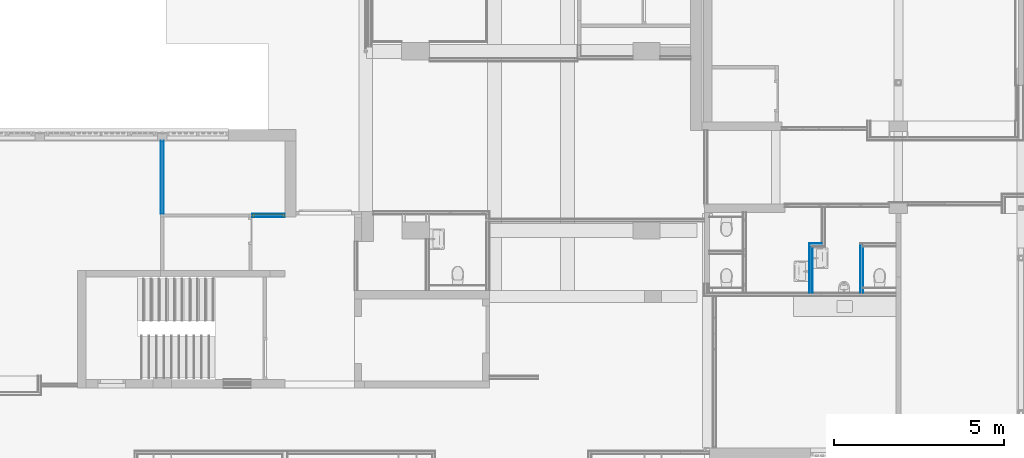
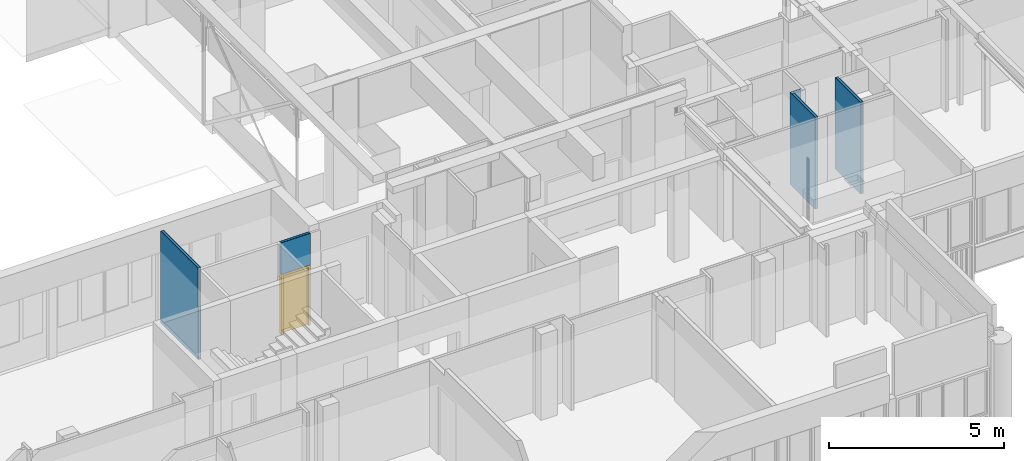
# One storey, part 77 of 117: 13 building element parts, 1 door, 1 opening, 5 elements without a shape of their own.
"""IFC2X3 building model written with IfcOpenShell, lengths in millimetres."""

from ifc_helpers import new_model, entity, si_unit, converted_unit, derived_unit, money_unit, direction, frame, origin_with_axes, place, context, subcontext, project, spatial, faceted_brep, material, type_object, element, fill, aggregate, save


model = new_model("IFC2X3")

# Units and contexts
model_context = context("Model", 3, precision=0.01, world=origin_with_axes(), true_north=direction((0.0, 1.0)))
body_context = subcontext(model_context, "Body", "Model", "MODEL_VIEW")
ifc_project = project(units=[si_unit("LENGTHUNIT", "METRE", prefix="MILLI"), si_unit("AREAUNIT", "SQUARE_METRE"), si_unit("VOLUMEUNIT", "CUBIC_METRE"), converted_unit("PLANEANGLEUNIT", "DEGREE", entity("IfcPlaneAngleMeasure", 0.0174532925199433), si_unit("PLANEANGLEUNIT", "RADIAN"), dimensions=[0, 0, 0, 0, 0, 0, 0]), money_unit("EUR"), converted_unit("TIMEUNIT", "Year", entity("IfcTimeMeasure", 31557600.0), si_unit("TIMEUNIT", "SECOND"), dimensions=[0, 0, 1, 0, 0, 0, 0]), si_unit("MASSUNIT", "GRAM", prefix="KILO"), si_unit("THERMODYNAMICTEMPERATUREUNIT", "DEGREE_CELSIUS"), si_unit("LUMINOUSINTENSITYUNIT", "LUMEN"), si_unit("ENERGYUNIT", "JOULE", prefix="MEGA"), derived_unit("THERMALCONDUCTANCEUNIT", [(si_unit("POWERUNIT", "WATT"), 1), (si_unit("LENGTHUNIT", "METRE"), -1), (si_unit("THERMODYNAMICTEMPERATUREUNIT", "KELVIN"), -1)]), derived_unit("SPECIFICHEATCAPACITYUNIT", [(si_unit("ENERGYUNIT", "JOULE"), 1), (si_unit("MASSUNIT", "GRAM", prefix="KILO"), -1), (si_unit("THERMODYNAMICTEMPERATUREUNIT", "KELVIN"), -1)]), derived_unit("MASSDENSITYUNIT", [(si_unit("MASSUNIT", "GRAM", prefix="KILO"), 1), (si_unit("VOLUMEUNIT", "CUBIC_METRE"), -1)])], contexts=[model_context])

# Site, building, storey
site_placement = place(None, origin_with_axes())
site = spatial("IfcSite", under=ifc_project, at=site_placement, Name="Site", CompositionType="ELEMENT")
building_placement = place(site_placement, origin_with_axes())
building = spatial("IfcBuilding", under=site, at=building_placement, Name="Naam gebouw", CompositionType="ELEMENT")
storey_placement = place(building_placement, frame((0.0, 0.0, 4150.0), z_axis=(0.0, 0.0, 1.0), x_axis=(1.0, 0.0, 0.0)))
storey = spatial("IfcBuildingStorey", under=building, at=storey_placement, Name="1e verdieping N", CompositionType="ELEMENT", Elevation=4150.0)

# Door
door_style = type_object("IfcDoorStyle", Name="D1 27", ConstructionType="NOTDEFINED", OperationType="SINGLE_SWING_RIGHT", ParameterTakesPrecedence=False, Sizeable=False)
wall_1_placement = place(storey_placement, frame((17037.79224075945, 17756.42315075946, 0.0), z_axis=(0.0, 0.0, 1.0), x_axis=(1.0, 0.0, 0.0)))
opening_placement = place(wall_1_placement, frame((481.1039150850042, 0.0, 0.0), z_axis=(0.0, 0.0, 1.0), x_axis=(1.0, 0.0, 0.0)))
door_placement = place(opening_placement, frame((-481.1039150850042, 0.0, 0.0), z_axis=(0.0, 0.0, 1.0), x_axis=(1.0, 0.0, 0.0)))
door = element("IfcDoor", 1, at=door_placement, inside=storey, type_object=door_style, Name="_Merk-x", ObjectType="DOOR", OverallHeight=2100.0, OverallWidth=962.208, context=body_context, shape_type="Brep", body=[
    faceted_brep([(67.00000000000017, 67.00000000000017, 0.0), (67.00000000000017, 67.00000000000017, 2033.0), (67.00000000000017, -7.00000000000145, 2033.0), (67.00000000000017, -7.00000000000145, 0.0), (50.00000000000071, 67.00000000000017, 2033.0), (50.00000000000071, 67.00000000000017, 0.0), (50.00000000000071, 106.9999999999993, 2033.0), (0.0, 106.9999999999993, 2033.0), (0.0, -7.00000000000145, 2033.0), (0.0, -7.00000000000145, 0.0), (0.0, 106.9999999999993, 0.0), (50.00000000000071, 106.9999999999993, 0.0)], [[[0, 1, 2, 3]], [[4, 1, 0, 5]], [[4, 6, 7, 8, 2, 1]], [[3, 2, 8, 9]], [[5, 0, 3, 9, 10, 11]], [[6, 4, 5, 11]], [[6, 11, 10, 7]], [[10, 9, 8, 7]]]),
    faceted_brep([(912.2078301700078, 67.00000000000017, 2033.0), (895.2078301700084, 67.00000000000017, 2033.0), (895.2078301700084, -7.00000000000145, 2033.0), (962.2078301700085, -7.00000000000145, 2033.0), (962.2078301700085, 106.9999999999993, 2033.0), (912.2078301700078, 106.9999999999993, 2033.0), (912.2078301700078, 67.00000000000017, 0.0), (895.2078301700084, 67.00000000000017, 0.0), (895.2078301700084, -7.00000000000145, 0.0), (962.2078301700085, -7.00000000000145, 0.0), (962.2078301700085, 106.9999999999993, 0.0), (912.2078301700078, 106.9999999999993, 0.0)], [[[0, 1, 2, 3, 4, 5]], [[1, 0, 6, 7]], [[1, 7, 8, 2]], [[3, 2, 8, 9]], [[4, 3, 9, 10]], [[11, 5, 4, 10]], [[0, 5, 11, 6]], [[6, 11, 10, 9, 8, 7]]]),
    faceted_brep([(50.00000000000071, 106.9999999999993, 2050.0), (50.00000000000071, 106.9999999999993, 2033.0), (0.0, 106.9999999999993, 2033.0), (0.0, 106.9999999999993, 2100.0), (962.2078301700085, 106.9999999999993, 2100.0), (962.2078301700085, 106.9999999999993, 2033.0), (912.2078301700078, 106.9999999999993, 2033.0), (912.2078301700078, 106.9999999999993, 2050.0), (50.00000000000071, 67.00000000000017, 2050.0), (50.00000000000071, 67.00000000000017, 2033.0), (67.00000000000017, 67.00000000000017, 2033.0), (67.00000000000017, -7.00000000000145, 2033.0), (0.0, -7.00000000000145, 2033.0), (0.0, -7.00000000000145, 2100.0), (962.2078301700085, -7.00000000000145, 2100.0), (962.2078301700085, -7.00000000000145, 2033.0), (912.2078301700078, 67.00000000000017, 2033.0), (895.2078301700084, -7.00000000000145, 2033.0), (895.2078301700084, 67.00000000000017, 2033.0), (912.2078301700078, 67.00000000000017, 2050.0)], [[[0, 1, 2, 3, 4, 5, 6, 7]], [[1, 0, 8, 9]], [[9, 10, 11, 12, 2, 1]], [[2, 12, 13, 3]], [[3, 13, 14, 4]], [[4, 14, 15, 5]], [[16, 6, 5, 15, 17, 18]], [[7, 6, 16, 19]], [[0, 7, 19, 8]], [[16, 18, 10, 9, 8, 19]], [[10, 18, 17, 11]], [[17, 15, 14, 13, 12, 11]]]),
    faceted_brep([(912.2078301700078, 106.9999999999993, 0.0), (912.2078301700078, 67.00000000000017, 0.0), (50.00000000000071, 67.00000000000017, 0.0), (50.00000000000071, 106.9999999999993, 0.0), (912.2078301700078, 106.9999999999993, 2050.0), (912.2078301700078, 67.00000000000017, 2050.0), (50.00000000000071, 67.00000000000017, 2050.0), (50.00000000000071, 106.9999999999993, 2050.0)], [[[0, 1, 2, 3]], [[4, 5, 1, 0]], [[1, 5, 6, 2]], [[3, 2, 6, 7]], [[0, 3, 7, 4]], [[7, 6, 5, 4]]]),
])

# Wall, opening
wall_type = type_object("IfcWallType", Name="Metalstud iso 100 100", PredefinedType="NOTDEFINED")
wall_1 = element("IfcWall", 2, at=wall_1_placement, inside=storey, type_object=wall_type, Name="_Wand-x")
opening = element("IfcOpeningElement", 3, at=opening_placement, cuts=wall_1, Name="_Merk-x", context=body_context, shape_type="Brep", body=[
    faceted_brep([(-481.1039150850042, -1.000000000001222, 2100.0), (-481.1039150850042, -1.000000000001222, 0.0), (481.1039150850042, -1.000000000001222, 0.0), (481.1039150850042, -1.000000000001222, 2100.0), (-481.1039150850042, 101.0000000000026, 2100.0), (-481.1039150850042, 101.0000000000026, 0.0), (481.1039150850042, 101.0000000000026, 0.0), (481.1039150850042, 101.0000000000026, 2100.0)], [[[0, 1, 2, 3]], [[4, 5, 1, 0]], [[5, 6, 2, 1]], [[6, 7, 3, 2]], [[7, 4, 0, 3]], [[6, 5, 4, 7]]]),
])

fill(opening, door)

# Building element part
ifc_material_1 = material(Name="Gipsplaat")
building_element_part_1_placement = place(wall_1_placement, origin_with_axes())
building_element_part_1 = element("IfcBuildingElementPart", 4, at=building_element_part_1_placement, material=ifc_material_1, Name="Gipsplaat", context=body_context, shape_type="Brep", body=[
    faceted_brep([(962.2078301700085, 87.49999999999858, 2100.0), (962.2078301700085, 100.0000000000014, 2100.0), (962.2060460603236, 100.0000000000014, 3200.0), (962.2060460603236, 87.49999999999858, 3200.0), (0.0, 100.0000000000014, 2100.0), (0.0, 87.49999999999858, 2100.0), (0.0, 100.0000000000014, 3200.0), (0.0, 87.49999999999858, 3200.0)], [[[0, 1, 2, 3]], [[4, 1, 0, 5]], [[1, 4, 6, 2]], [[2, 6, 7, 3]], [[5, 0, 3, 7]], [[4, 5, 7, 6]]]),
])

ifc_material_2 = material(Name="Isolatie - Steenwol LSW")
building_element_part_2_placement = place(wall_1_placement, origin_with_axes())
building_element_part_2 = element("IfcBuildingElementPart", 5, at=building_element_part_2_placement, material=ifc_material_2, Name="Isolatie - Steenwol LSW", context=body_context, shape_type="Brep", body=[
    faceted_brep([(962.2078301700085, 12.49999999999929, 2100.0), (962.2078301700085, 87.49999999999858, 2100.0), (962.2060460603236, 87.49999999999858, 3200.0), (962.2060460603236, 68.32807575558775, 3200.0), (962.2060460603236, 12.49999999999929, 3200.0), (0.0, 87.49999999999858, 2100.0), (0.0, 12.49999999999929, 2100.0), (0.0, 87.49999999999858, 3200.0), (0.0, 12.49999999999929, 3200.0)], [[[0, 1, 2, 3, 4]], [[5, 1, 0, 6]], [[1, 5, 7, 2]], [[7, 8, 4, 3, 2]], [[6, 0, 4, 8]], [[5, 6, 8, 7]]]),
])

building_element_part_3_placement = place(wall_1_placement, origin_with_axes())
building_element_part_3 = element("IfcBuildingElementPart", 6, at=building_element_part_3_placement, material=ifc_material_1, Name="Gipsplaat", context=body_context, shape_type="Brep", body=[
    faceted_brep([(962.2078301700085, 0.0, 2100.0), (962.2078301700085, 12.49999999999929, 2100.0), (962.2060460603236, 12.49999999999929, 3200.0), (962.2060460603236, 0.0, 3200.0), (0.0, 12.49999999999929, 2100.0), (0.0, 0.0, 2100.0), (0.0, 12.49999999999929, 3200.0), (0.0, 0.0, 3200.0)], [[[0, 1, 2, 3]], [[4, 1, 0, 5]], [[1, 4, 6, 2]], [[2, 6, 7, 3]], [[5, 0, 3, 7]], [[4, 5, 7, 6]]]),
])

aggregate(wall_1, [building_element_part_1, building_element_part_2, building_element_part_3])

# Wall, building element part
wall_2_placement = place(storey_placement, frame((33749.1870993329, 16990.91242510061, 0.0), z_axis=(0.0, 0.0, 1.0), x_axis=(-1.0, 0.0, 0.0)))
wall_2 = element("IfcWall", 7, at=wall_2_placement, inside=storey, type_object=wall_type, Name="_Wand-x")
building_element_part_4_placement = place(wall_2_placement, origin_with_axes())
building_element_part_4 = element("IfcBuildingElementPart", 8, at=building_element_part_4_placement, material=ifc_material_1, Name="Gipsplaat", context=body_context, shape_type="Brep", body=[
    faceted_brep([(366.0689217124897, 0.0, 3200.0), (0.0, 0.0, 3200.0), (0.0, 0.0, 0.0), (366.0689217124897, 0.0, 0.0), (0.0, 12.49999999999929, 3200.0), (366.0689217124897, 12.49999999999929, 3200.0), (0.0, 12.49999999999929, 0.0), (366.0689217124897, 12.49999999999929, 0.0)], [[[0, 1, 2, 3]], [[4, 1, 0, 5]], [[1, 4, 6, 2]], [[7, 3, 2, 6]], [[5, 0, 3, 7]], [[4, 5, 7, 6]]]),
])
aggregate(wall_2, [building_element_part_4])

# Wall, building element parts
wall_3_placement = place(storey_placement, frame((34925.00000000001, 15540.91242510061, 0.0), z_axis=(0.0, 0.0, 1.0), x_axis=(0.0, 1.0, 0.0)))
wall_3 = element("IfcWall", 9, at=wall_3_placement, inside=storey, type_object=wall_type, Name="_Wand-x")
building_element_part_5_placement = place(wall_3_placement, origin_with_axes())
building_element_part_5 = element("IfcBuildingElementPart", 10, at=building_element_part_5_placement, material=ifc_material_1, Name="Gipsplaat", context=body_context, shape_type="Brep", body=[
    faceted_brep([(1450.000000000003, 49.99999999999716, 3200.0), (1450.000000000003, 37.50000000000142, 3200.0), (1450.000000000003, 37.50000000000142, 0.0), (1450.000000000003, 49.99999999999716, 0.0), (0.0, 37.50000000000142, 3200.0), (0.0, 49.99999999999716, 3200.0), (0.0, 37.50000000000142, 0.0), (0.0, 49.99999999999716, 0.0)], [[[0, 1, 2, 3]], [[4, 1, 0, 5]], [[1, 4, 6, 2]], [[3, 2, 6, 7]], [[5, 0, 3, 7]], [[4, 5, 7, 6]]]),
])
building_element_part_6_placement = place(wall_3_placement, origin_with_axes())
building_element_part_6 = element("IfcBuildingElementPart", 11, at=building_element_part_6_placement, material=ifc_material_1, Name="Gipsplaat", context=body_context, shape_type="Brep", body=[
    faceted_brep([(1362.500000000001, -37.50000000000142, 3200.0), (1362.500000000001, -49.99999999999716, 3200.0), (1362.500000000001, -49.99999999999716, 0.0), (1362.500000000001, -37.50000000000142, 0.0), (0.0, -49.99999999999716, 3200.0), (0.0, -37.50000000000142, 3200.0), (0.0, -49.99999999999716, 0.0), (0.0, -37.50000000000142, 0.0)], [[[0, 1, 2, 3]], [[4, 1, 0, 5]], [[1, 4, 6, 2]], [[3, 2, 6, 7]], [[5, 0, 3, 7]], [[4, 5, 7, 6]]]),
])
building_element_part_7_placement = place(wall_3_placement, origin_with_axes())
building_element_part_7 = element("IfcBuildingElementPart", 12, at=building_element_part_7_placement, material=ifc_material_2, Name="Isolatie - Steenwol LSW", context=body_context, shape_type="Brep", body=[
    faceted_brep([(1437.5, 37.50000000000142, 3200.0), (1437.5, -37.50000000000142, 3200.0), (1437.5, -37.50000000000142, 0.0), (1437.5, 37.50000000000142, 0.0), (0.0, -37.50000000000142, 3200.0), (0.0, 37.50000000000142, 3200.0), (0.0, -37.50000000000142, 0.0), (0.0, 37.50000000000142, 0.0)], [[[0, 1, 2, 3]], [[4, 1, 0, 5]], [[1, 4, 6, 2]], [[3, 2, 6, 7]], [[5, 0, 3, 7]], [[4, 5, 7, 6]]]),
])
aggregate(wall_3, [building_element_part_5, building_element_part_6, building_element_part_7])

wall_4_placement = place(storey_placement, frame((14350.0, 19995.89435072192, 0.0), z_axis=(0.0, 0.0, 1.0), x_axis=(0.0, -1.0, 0.0)))
wall_4 = element("IfcWall", 13, at=wall_4_placement, inside=storey, type_object=wall_type, Name="_Wand-x")
building_element_part_8_placement = place(wall_4_placement, origin_with_axes())
building_element_part_8 = element("IfcBuildingElementPart", 14, at=building_element_part_8_placement, material=ifc_material_1, Name="Gipsplaat", context=body_context, shape_type="Brep", body=[
    faceted_brep([(-0.0004522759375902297, 87.50000000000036, 0.0), (-0.0004522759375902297, 87.50000000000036, 3200.0), (-0.0005168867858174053, 99.99999999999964, 3200.0), (-0.0005168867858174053, 99.99999999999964, 0.0), (2139.471199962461, 87.50000000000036, 0.0), (2139.471199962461, 87.50000000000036, 3200.0), (2139.471199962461, 99.99999999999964, 3200.0), (2139.471199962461, 99.99999999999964, 0.0)], [[[0, 1, 2, 3]], [[4, 5, 1, 0]], [[5, 6, 2, 1]], [[3, 2, 6, 7]], [[0, 3, 7, 4]], [[7, 6, 5, 4]]]),
])
building_element_part_9_placement = place(wall_4_placement, origin_with_axes())
building_element_part_9 = element("IfcBuildingElementPart", 15, at=building_element_part_9_placement, material=ifc_material_2, Name="Isolatie - Steenwol LSW", context=body_context, shape_type="Brep", body=[
    faceted_brep([(-6.461084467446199e-05, 12.49999999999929, 0.0), (-6.461084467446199e-05, 12.50000000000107, 3200.0), (-0.0004522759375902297, 87.50000000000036, 3200.0), (-0.0004522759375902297, 87.50000000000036, 0.0), (2139.471199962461, 12.49999999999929, 0.0), (2139.471199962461, 12.49999999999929, 3200.0), (2139.471199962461, 87.50000000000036, 3200.0), (2139.471199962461, 87.50000000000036, 0.0)], [[[0, 1, 2, 3]], [[4, 5, 1, 0]], [[5, 6, 2, 1]], [[3, 2, 6, 7]], [[0, 3, 7, 4]], [[7, 6, 5, 4]]]),
])
building_element_part_10_placement = place(wall_4_placement, origin_with_axes())
building_element_part_10 = element("IfcBuildingElementPart", 16, at=building_element_part_10_placement, material=ifc_material_1, Name="Gipsplaat", context=body_context, shape_type="Brep", body=[
    faceted_brep([(0.0, 0.0, 0.0), (0.0, 0.0, 3200.0), (-6.461084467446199e-05, 12.50000000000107, 3200.0), (-6.461084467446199e-05, 12.49999999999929, 0.0), (2139.471199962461, 0.0, 0.0), (2139.471199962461, 0.0, 3200.0), (2139.471199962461, 12.49999999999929, 3200.0), (2139.471199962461, 12.49999999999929, 0.0)], [[[0, 1, 2, 3]], [[4, 5, 1, 0]], [[5, 6, 2, 1]], [[3, 2, 6, 7]], [[0, 3, 7, 4]], [[7, 6, 5, 4]]]),
])
aggregate(wall_4, [building_element_part_8, building_element_part_9, building_element_part_10])

wall_5_placement = place(storey_placement, frame((33383.11817762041, 16990.91242510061, 0.0), z_axis=(0.0, 0.0, 1.0), x_axis=(0.0, -1.0, 0.0)))
wall_5 = element("IfcWall", 17, at=wall_5_placement, inside=storey, type_object=wall_type, Name="_Wand-x")
building_element_part_11_placement = place(wall_5_placement, origin_with_axes())
building_element_part_11 = element("IfcBuildingElementPart", 18, at=building_element_part_11_placement, material=ifc_material_1, Name="Gipsplaat", context=body_context, shape_type="Brep", body=[
    faceted_brep([(100.0000000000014, 87.49999999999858, 3200.0), (100.0000000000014, 100.0000000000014, 3200.0), (100.0000000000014, 100.0000000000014, 0.0), (100.0000000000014, 87.49999999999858, 0.0), (1450.000000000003, 100.0000000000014, 3200.0), (1450.000000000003, 87.49999999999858, 3200.0), (1450.000000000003, 100.0000000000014, 0.0), (1450.000000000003, 87.49999999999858, 0.0)], [[[0, 1, 2, 3]], [[4, 1, 0, 5]], [[1, 4, 6, 2]], [[6, 7, 3, 2]], [[5, 0, 3, 7]], [[4, 5, 7, 6]]]),
])
building_element_part_12_placement = place(wall_5_placement, origin_with_axes())
building_element_part_12 = element("IfcBuildingElementPart", 19, at=building_element_part_12_placement, material=ifc_material_1, Name="Gipsplaat", context=body_context, shape_type="Brep", body=[
    faceted_brep([(12.49999999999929, 0.0, 3200.0), (12.49999999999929, 12.50000000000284, 3200.0), (12.49999999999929, 12.50000000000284, 0.0), (12.49999999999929, 0.0, 0.0), (1450.000000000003, 12.50000000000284, 3200.0), (1450.000000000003, 0.0, 3200.0), (1450.000000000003, 12.50000000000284, 0.0), (1450.000000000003, 0.0, 0.0)], [[[0, 1, 2, 3]], [[4, 1, 0, 5]], [[1, 4, 6, 2]], [[6, 7, 3, 2]], [[5, 0, 3, 7]], [[4, 5, 7, 6]]]),
])
building_element_part_13_placement = place(wall_5_placement, origin_with_axes())
building_element_part_13 = element("IfcBuildingElementPart", 20, at=building_element_part_13_placement, material=ifc_material_2, Name="Isolatie - Steenwol LSW", context=body_context, shape_type="Brep", body=[
    faceted_brep([(87.49999999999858, 12.50000000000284, 3200.0), (87.49999999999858, 87.49999999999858, 3200.0), (87.49999999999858, 87.49999999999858, 0.0), (87.49999999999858, 12.50000000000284, 0.0), (1450.000000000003, 87.49999999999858, 3200.0), (1450.000000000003, 12.50000000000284, 3200.0), (1450.000000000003, 87.49999999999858, 0.0), (1450.000000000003, 12.50000000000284, 0.0)], [[[0, 1, 2, 3]], [[4, 1, 0, 5]], [[1, 4, 6, 2]], [[6, 7, 3, 2]], [[5, 0, 3, 7]], [[4, 5, 7, 6]]]),
])
aggregate(wall_5, [building_element_part_11, building_element_part_12, building_element_part_13])

save(model, "model.ifc")
